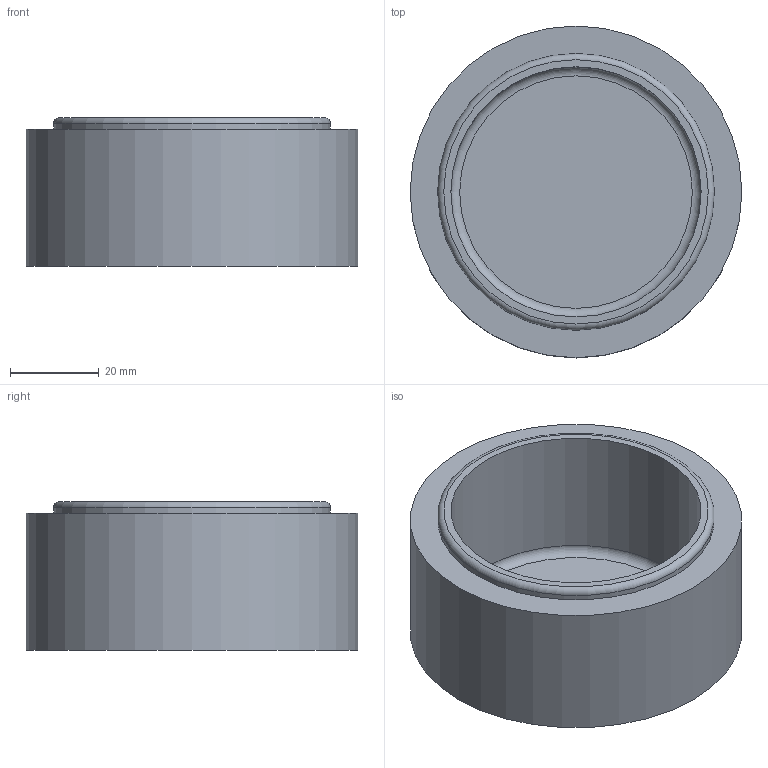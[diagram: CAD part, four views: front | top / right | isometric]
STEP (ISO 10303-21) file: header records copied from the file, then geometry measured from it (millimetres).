
FILE_DESCRIPTION(/* description */ ('STEP AP242','CAx-IF Rec.Pracs.---Representation and Presentation of Product Manufacturing Information (PMI)---4.0---2014-10-13','CAx-IF Rec.Pracs.---3D Tessellated Geometry---0.4---2014-09-14','2;1'),/* implementation_level */ '2;1');
FILE_NAME(/* name */ '6465b8247c5e517f9e04edd0',/* time_stamp */ '2023-05-18T05:31:16Z',/* author */ (''),/* organization */ (''),/* preprocessor_version */ 'ST-DEVELOPER v19.4',/* originating_system */ ' ',/* authorisation */ ' ');
FILE_SCHEMA (('AP242_MANAGED_MODEL_BASED_3D_ENGINEERING_MIM_LF { 1 0 10303 442 1 1 4 }'));
Length unit declared in the file: metre
Products named in the file (1): Stand NoLug
Bounding box: 74.9 x 74.9 x 33.6 mm (x, y, z)
Volume: 65406.6 mm3; surface area: 21953.2 mm2
Topology: 1 solids, 1 shells, 9 faces, 15 edges, 10 vertices
Faces by surface type: plane 4, cylinder 3, torus 2
Full cylindrical faces by diameter (mm): 56.5 x1, 62.5 x1, 74.9 x1
Entity records: 196 total; most frequent: DIRECTION 36, CARTESIAN_POINT 26, AXIS2_PLACEMENT_3D 18, ORIENTED_EDGE 16, EDGE_LOOP 16, FACE_BOUND 16, ADVANCED_FACE 9, EDGE_CURVE 8
